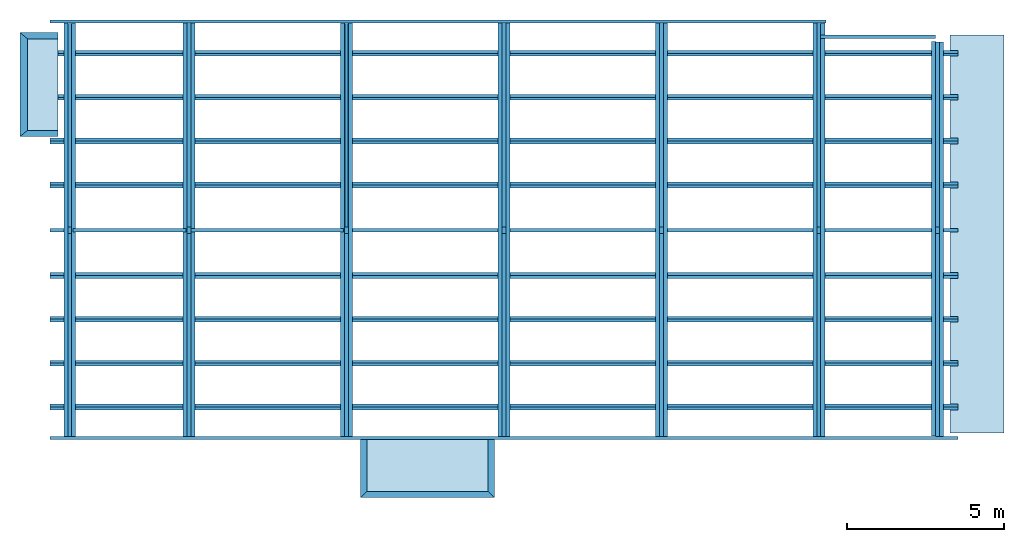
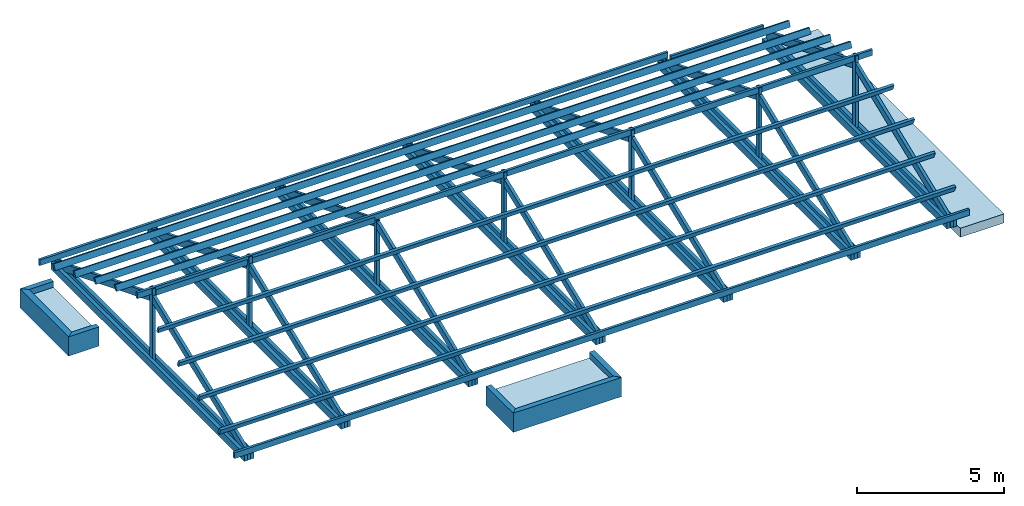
# One storey: 50 discrete accessories, 6 walls, 3 slabs.
"""IFC2X3 building model written with IfcOpenShell, lengths in metres."""

from ifc_helpers import new_model, entity, si_unit, converted_unit, derived_unit, money_unit, direction, frame, origin_with_axes, place, context, subcontext, project, spatial, polyline, outline, extrude, faceted_brep, source, transform, mapped, material, layer, layer_set, layer_usage, type_object, element, save


model = new_model("IFC2X3")

# Units and contexts
model_context = context("Model", 3, precision=1e-05, world=origin_with_axes(), true_north=direction((0.0, 1.0)))
body_context = subcontext(model_context, "Body", "Model", "MODEL_VIEW")
ifc_project = project(units=[si_unit("LENGTHUNIT", "METRE"), si_unit("AREAUNIT", "SQUARE_METRE"), si_unit("VOLUMEUNIT", "CUBIC_METRE"), converted_unit("PLANEANGLEUNIT", "DEGREE", entity("IfcPlaneAngleMeasure", 0.0174532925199), si_unit("PLANEANGLEUNIT", "RADIAN"), dimensions=[0, 0, 0, 0, 0, 0, 0]), money_unit("CHF"), converted_unit("TIMEUNIT", "Year", entity("IfcTimeMeasure", 31556926.0), si_unit("TIMEUNIT", "SECOND"), dimensions=[0, 0, 1, 0, 0, 0, 0]), si_unit("MASSUNIT", "GRAM", prefix="KILO"), si_unit("THERMODYNAMICTEMPERATUREUNIT", "DEGREE_CELSIUS"), si_unit("LUMINOUSINTENSITYUNIT", "LUMEN"), si_unit("ENERGYUNIT", "JOULE", prefix="MEGA"), derived_unit("THERMALCONDUCTANCEUNIT", [(si_unit("POWERUNIT", "WATT"), 1), (si_unit("LENGTHUNIT", "METRE"), -1), (si_unit("THERMODYNAMICTEMPERATUREUNIT", "KELVIN"), -1)]), derived_unit("SPECIFICHEATCAPACITYUNIT", [(si_unit("ENERGYUNIT", "JOULE"), 1), (si_unit("MASSUNIT", "GRAM", prefix="KILO"), -1), (si_unit("THERMODYNAMICTEMPERATUREUNIT", "KELVIN"), -1)]), derived_unit("MASSDENSITYUNIT", [(si_unit("MASSUNIT", "GRAM", prefix="KILO"), 1), (si_unit("VOLUMEUNIT", "CUBIC_METRE"), -1)])], contexts=[model_context])

# Site, building, storey
site_placement = place(None, origin_with_axes())
site = spatial("IfcSite", under=ifc_project, at=site_placement, Name="Site", CompositionType="ELEMENT")
building_placement = place(site_placement, origin_with_axes())
building = spatial("IfcBuilding", under=site, at=building_placement, Name="Bâtiment", CompositionType="ELEMENT")
storey_placement = place(building_placement, frame((0.0, 0.0, 7.4), z_axis=(0.0, 0.0, 1.0), x_axis=(1.0, 0.0, 0.0)))
storey = spatial("IfcBuildingStorey", under=building, at=storey_placement, Name="TOITURE", CompositionType="ELEMENT", Elevation=7.4)

# Slabs
ifc_material_1 = material(Name="Fer 269029580")
ifc_layer_1 = layer(ifc_material_1, 0.005, ventilated="UNKNOWN")
ifc_material_2 = material(Name="Etanchéité 286798990")
ifc_layer_2 = layer(ifc_material_2, 0.005, ventilated="UNKNOWN")
ifc_material_3 = material(Name="25 % 7019220")
ifc_layer_3 = layer(ifc_material_3, 0.005, ventilated="UNKNOWN")
ifc_material_4 = material(Name="Isolation laine de pierre 356123750")
ifc_layer_4 = layer(ifc_material_4, 0.15, ventilated="UNKNOWN")
ifc_material_5 = material(Name="50 % 1167783752")
ifc_layer_5 = layer(ifc_material_5, 0.005, ventilated="UNKNOWN")
ifc_material_6 = material(Name="Sans Trame 1167258944")
ifc_layer_6 = layer(ifc_material_6, 0.005, ventilated="UNKNOWN")
ifc_material_7 = material(Name="Bois massif 333501804")
ifc_layer_7 = layer(ifc_material_7, 0.2, ventilated="UNKNOWN")
ifc_layer_set_1 = layer_set([ifc_layer_1, ifc_layer_2, ifc_layer_3, ifc_layer_4, ifc_layer_5, ifc_layer_6, ifc_layer_7], Name="Dalle: Etancheite bicouche auto protegee + iso22")
ifc_layer_usage_1 = layer_usage(ifc_layer_set_1, "AXIS3", "NEGATIVE", 0.375)
slab_type = type_object("IfcSlabType", Name="Dalle: Etancheite bicouche auto protegee + iso22 375", PredefinedType="FLOOR")
slab_1_placement = place(storey_placement, frame((1697.46729001, 177.580132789, -4.1617677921), z_axis=(0.0, 0.0, 1.0), x_axis=(1.0, 0.0, 0.0)))
element("IfcSlab", 1, at=slab_1_placement, inside=storey, type_object=slab_type, material=ifc_layer_usage_1, Name="Dalle-21", PredefinedType="FLOOR", context=body_context, shape_type="SweptSolid", body=[
    extrude(outline(polyline([(0.0, 0.0), (0.0, 12.6399091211), (-1.71, 12.6399091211), (-1.71, 0.00777014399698), (0.0, 0.0)])), frame((0.0, 0.0, -0.375), z_axis=(0.0, 0.0, 1.0), x_axis=(1.0, 0.0, 0.0)), (0.0, 0.0, 1.0), 0.375),
])
ifc_layer_usage_2 = layer_usage(ifc_layer_set_1, "AXIS3", "NEGATIVE", 0.375)
slab_2_placement = place(storey_placement, frame((1667.16729001, 190.10004191, -4.2750000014), z_axis=(0.0, 0.0, 1.0), x_axis=(1.0, 0.0, 0.0)))
element("IfcSlab", 2, at=slab_2_placement, inside=storey, type_object=slab_type, material=ifc_layer_usage_2, Name="Dalle-21", PredefinedType="FLOOR", context=body_context, shape_type="SweptSolid", body=[
    extrude(outline(polyline([(-0.749999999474, 0.0), (-0.749999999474, -2.90148428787), (0.250000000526, -2.90148428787), (0.250000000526, 0.0), (-0.749999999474, 0.0)])), frame((0.0, 0.0, -0.375), z_axis=(0.0, 0.0, 1.0), x_axis=(1.0, 0.0, 0.0)), (0.0, 0.0, 1.0), 0.375),
])
ifc_layer_usage_3 = layer_usage(ifc_layer_set_1, "AXIS3", "NEGATIVE", 0.375)
slab_3_placement = place(storey_placement, frame((1677.23729001, 175.725296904, -4.2750000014), z_axis=(0.0, 0.0, 1.0), x_axis=(1.0, 0.0, 0.0)))
element("IfcSlab", 3, at=slab_3_placement, inside=storey, type_object=slab_type, material=ifc_layer_usage_3, Name="Dalle-21", PredefinedType="FLOOR", context=body_context, shape_type="SweptSolid", body=[
    extrude(outline(polyline([(0.0, 0.0), (3.85, 0.0), (3.85, 1.65474500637), (0.0, 1.65474500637), (0.0, 0.0)])), frame((0.0, 0.0, -0.375), z_axis=(0.0, 0.0, 1.0), x_axis=(1.0, 0.0, 0.0)), (0.0, 0.0, 1.0), 0.375),
])

# Walls
ifc_material_8 = material(Name="Diagonales 1167258944")
ifc_layer_8 = layer(ifc_material_8, 0.2, ventilated="UNKNOWN")
ifc_layer_set_2 = layer_set([ifc_layer_8], Name="Diagonales 1167258944 0.2")
ifc_layer_usage_4 = layer_usage(ifc_layer_set_2, "AXIS2", "POSITIVE", 0.0)
wall_type_1 = type_object("IfcWallType", Name="Diagonales 1167258944 200", PredefinedType="NOTDEFINED")
wall_1_placement = place(storey_placement, frame((1666.21729001, 186.997764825, -4.83), z_axis=(0.0, 0.0, 1.0), x_axis=(1.0, 0.0, 0.0)))
element("IfcWallStandardCase", 4, at=wall_1_placement, inside=storey, type_object=wall_type_1, material=ifc_layer_usage_4, Name="Mur-008", context=body_context, shape_type="SweptSolid", body=[
    extrude(outline(polyline([(0.0, 0.0), (1.2, 0.0), (1.2, 0.2), (0.24, 0.2), (0.0, 0.0)])), origin_with_axes(), (0.0, 0.0, 1.0), 0.8),
])
ifc_layer_usage_5 = layer_usage(ifc_layer_set_2, "AXIS2", "POSITIVE", 0.0)
wall_2_placement = place(storey_placement, frame((1667.41729001, 190.30004191, -4.83), z_axis=(0.0, 0.0, 1.0), x_axis=(-1.0, 0.0, 0.0)))
element("IfcWallStandardCase", 5, at=wall_2_placement, inside=storey, type_object=wall_type_1, material=ifc_layer_usage_5, Name="Mur-006", context=body_context, shape_type="SweptSolid", body=[
    extrude(outline(polyline([(0.0, 0.0), (1.2, 0.0), (0.96, 0.2), (0.0, 0.2), (0.0, 0.0)])), origin_with_axes(), (0.0, 0.0, 1.0), 0.8),
])
ifc_layer_usage_6 = layer_usage(ifc_layer_set_2, "AXIS2", "NEGATIVE", 0.0)
wall_3_placement = place(storey_placement, frame((1681.08729001, 175.731986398, -4.83), z_axis=(0.0, 0.0, 1.0), x_axis=(0.0, 1.0, 0.0)))
element("IfcWallStandardCase", 6, at=wall_3_placement, inside=storey, type_object=wall_type_1, material=ifc_layer_usage_6, Name="Mur-008", context=body_context, shape_type="SweptSolid", body=[
    extrude(outline(polyline([(-0.2, -0.2), (1.64805551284, -0.2), (1.64805551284, 0.0), (0.0, 0.0), (-0.2, -0.2)])), origin_with_axes(), (0.0, 0.0, 1.0), 0.8),
])
ifc_layer_usage_7 = layer_usage(ifc_layer_set_2, "AXIS2", "NEGATIVE", 0.0)
wall_4_placement = place(storey_placement, frame((1677.23729001, 177.38004191, -4.83), z_axis=(0.0, 0.0, 1.0), x_axis=(0.0, -1.0, 0.0)))
element("IfcWallStandardCase", 7, at=wall_4_placement, inside=storey, type_object=wall_type_1, material=ifc_layer_usage_7, Name="Mur-006", context=body_context, shape_type="SweptSolid", body=[
    extrude(outline(polyline([(0.0, -0.2), (1.84805551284, -0.2), (1.64805551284, 0.0), (0.0, 0.0), (0.0, -0.2)])), origin_with_axes(), (0.0, 0.0, 1.0), 0.8),
])
ifc_layer_usage_8 = layer_usage(ifc_layer_set_2, "AXIS2", "NEGATIVE", 0.0)
wall_5_placement = place(storey_placement, frame((1677.23729001, 175.731986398, -4.83), z_axis=(0.0, 0.0, 1.0), x_axis=(1.0, 0.0, 0.0)))
element("IfcWallStandardCase", 8, at=wall_5_placement, inside=storey, type_object=wall_type_1, material=ifc_layer_usage_8, Name="Mur-007", context=body_context, shape_type="SweptSolid", body=[
    extrude(outline(polyline([(-0.2, -0.2), (4.05, -0.2), (3.85, 0.0), (0.0, 0.0), (-0.2, -0.2)])), origin_with_axes(), (0.0, 0.0, 1.0), 0.8),
])
ifc_layer_9 = layer(ifc_material_6, 0.02, ventilated="UNKNOWN")
ifc_layer_10 = layer(ifc_material_8, 0.2, ventilated="UNKNOWN")
ifc_layer_11 = layer(ifc_material_6, 0.02, ventilated="UNKNOWN")
ifc_layer_set_3 = layer_set([ifc_layer_9, ifc_layer_10, ifc_layer_11], Name="Mur: béton + enduit")
ifc_layer_usage_9 = layer_usage(ifc_layer_set_3, "AXIS2", "POSITIVE", 0.0)
wall_type_2 = type_object("IfcWallType", Name="Mur: béton + enduit 240", PredefinedType="NOTDEFINED")
wall_6_placement = place(storey_placement, frame((1666.21729001, 190.30004191, -4.83), z_axis=(0.0, 0.0, 1.0), x_axis=(0.0, -1.0, 0.0)))
element("IfcWallStandardCase", 9, at=wall_6_placement, inside=storey, type_object=wall_type_2, material=ifc_layer_usage_9, Name="Mur-007", context=body_context, shape_type="SweptSolid", body=[
    extrude(outline(polyline([(0.0, 0.0), (3.30227708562, 0.0), (3.10227708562, 0.24), (0.2, 0.24), (0.0, 0.0)])), origin_with_axes(), (0.0, 0.0, 1.0), 0.8),
])

# Discrete accessories
ifc_material_9 = material(Name="Béton 2389403790")
discrete_accessory_type_1 = type_object("IfcDiscreteAccessoryType", Name="Panne 25")
shared_shape_1 = source(origin_with_axes(), body_context, "Body", "Brep", [
    faceted_brep([(0.0, -0.135552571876, 0.204268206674), (0.0, -0.046424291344, -0.0185683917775), (28.8400000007, -0.046424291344, -0.0185683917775), (28.8400000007, -0.135552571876, 0.204268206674), (0.0, -0.042703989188, 0.241404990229), (0.0, 0.046424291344, 0.0185683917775), (28.8400000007, 0.046424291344, 0.0185683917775), (28.8400000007, -0.042703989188, 0.241404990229)], [[[0, 1, 2, 3]], [[0, 4, 5, 1]], [[1, 5, 6, 2]], [[3, 2, 6, 7]], [[4, 0, 3, 7]], [[5, 4, 7, 6]]]),
])
for number, where, z_axis, x_axis, name in (
    (10, (1667.16729001, 179.847244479, -2.62520672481), (0.0, 0.0, 1.0), (1.0, 0.0, 0.0), "Protection-014"),
    (11, (1667.16729001, 182.63270196, -1.51110321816), (0.0, 0.0, 1.0), (1.0, 0.0, 0.0), "Protection-014"),
    (12, (1667.16729001, 181.23997322, -2.06815497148), (0.0, 0.0, 1.0), (1.0, 0.0, 0.0), "Protection-014"),
    (13, (1667.16729001, 178.453979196, -3.18091514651), (0.0, 0.0, 1.0), (1.0, 0.0, 0.0), "Protection-014"),
):
    element("IfcDiscreteAccessory", number, at=place(storey_placement, frame(where, z_axis=z_axis, x_axis=x_axis)), inside=storey, type_object=discrete_accessory_type_1, material=ifc_material_9, Name=name, context=body_context, shape_type="MappedRepresentation", body=[
        mapped(shared_shape_1, transform((0.0, 0.0, 0.0))),
    ])
discrete_accessory_1_placement = place(storey_placement, frame((1667.16729001, 184.02504191, -0.953080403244), z_axis=(0.0, 0.0, 1.0), x_axis=(-1.0, 0.0, 0.0)))
element("IfcDiscreteAccessory", 14, at=discrete_accessory_1_placement, inside=storey, type_object=discrete_accessory_type_1, material=ifc_material_9, Name="Protection-014", context=body_context, shape_type="Brep", body=[
    faceted_brep([(0.0, -0.05, 0.24), (-28.8400000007, -0.05, 0.24), (-28.8400000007, -0.05, 0.0), (0.0, -0.05, 0.0), (0.0, 0.05, 0.24), (-28.8400000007, 0.05, 0.24), (-28.8400000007, 0.05, 0.0), (0.0, 0.05, 0.0)], [[[0, 1, 2, 3]], [[4, 5, 1, 0]], [[1, 5, 6, 2]], [[3, 2, 6, 7]], [[0, 3, 7, 4]], [[7, 6, 5, 4]]]),
])
discrete_accessory_2_placement = place(storey_placement, frame((1671.60729001, 184.02504191, -1.07149268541), z_axis=(0.0, 0.0, 1.0), x_axis=(-1.0, 0.0, 0.0)))
element("IfcDiscreteAccessory", 15, at=discrete_accessory_2_placement, inside=storey, type_object=discrete_accessory_type_1, material=ifc_material_9, Name="Protection-014", context=body_context, shape_type="Brep", body=[
    faceted_brep([(0.0, -0.05, 0.24), (-4.88, -0.05, 0.24), (-4.88, -0.05, 0.0), (0.0, -0.05, 0.0), (0.0, 0.05, 0.24), (-4.88, 0.05, 0.24), (-4.88, 0.05, 0.0), (0.0, 0.05, 0.0)], [[[0, 1, 2, 3]], [[4, 5, 1, 0]], [[1, 5, 6, 2]], [[3, 2, 6, 7]], [[0, 3, 7, 4]], [[7, 6, 5, 4]]]),
])
discrete_accessory_3_placement = place(storey_placement, frame((1667.89729001, 184.02504191, -1.07149268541), z_axis=(0.0, 0.0, 1.0), x_axis=(-1.0, 0.0, 0.0)))
element("IfcDiscreteAccessory", 16, at=discrete_accessory_3_placement, inside=storey, type_object=discrete_accessory_type_1, material=ifc_material_9, Name="Protection-014", context=body_context, shape_type="Brep", body=[
    faceted_brep([(0.0, -0.05, 0.24), (-3.5899999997, -0.05, 0.24), (-3.5899999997, -0.05, 0.0), (0.0, -0.05, 0.0), (0.0, 0.05, 0.24), (-3.5899999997, 0.05, 0.24), (-3.5899999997, 0.05, 0.0), (0.0, 0.05, 0.0)], [[[0, 1, 2, 3]], [[4, 5, 1, 0]], [[1, 5, 6, 2]], [[3, 2, 6, 7]], [[0, 3, 7, 4]], [[7, 6, 5, 4]]]),
])
discrete_accessory_4_placement = place(storey_placement, frame((1667.16729001, 190.65004191, -3.59999991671), z_axis=(0.0, 0.0, 1.0), x_axis=(-1.0, 0.0, 0.0)))
element("IfcDiscreteAccessory", 17, at=discrete_accessory_4_placement, inside=storey, type_object=discrete_accessory_type_1, material=ifc_material_9, Name="Protection-014", context=body_context, shape_type="Brep", body=[
    faceted_brep([(0.0, -0.05, 0.24), (-24.6474194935, -0.05, 0.24), (-24.6474194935, -0.05, 0.0), (0.0, -0.05, 0.0), (0.0, 0.05, 0.24), (-24.6474194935, 0.05, 0.24), (-24.6474194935, 0.05, 0.0), (0.0, 0.05, 0.0)], [[[0, 1, 2, 3]], [[4, 5, 1, 0]], [[1, 5, 6, 2]], [[3, 2, 6, 7]], [[0, 3, 7, 4]], [[7, 6, 5, 4]]]),
])
discrete_accessory_5_placement = place(storey_placement, frame((1691.64729001, 190.17004191, -3.42816348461), z_axis=(0.0, 0.0, 1.0), x_axis=(1.0, 0.0, 0.0)))
element("IfcDiscreteAccessory", 18, at=discrete_accessory_5_placement, inside=storey, type_object=discrete_accessory_type_1, material=ifc_material_9, Name="Protection-014", context=body_context, shape_type="Brep", body=[
    faceted_brep([(0.0, -0.05, 0.24), (0.0, -0.05, 0.0), (3.65122573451, -0.05, 0.0), (3.65122573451, -0.05, 0.24), (0.0, 0.05, 0.24), (0.0, 0.05, 0.0), (3.65122573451, 0.05, 0.0), (3.65122573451, 0.05, 0.24)], [[[0, 1, 2, 3]], [[0, 4, 5, 1]], [[1, 5, 6, 2]], [[3, 2, 6, 7]], [[4, 0, 3, 7]], [[5, 4, 7, 6]]]),
])
discrete_accessory_6_placement = place(storey_placement, frame((1667.16729001, 177.43004191, -3.58139315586), z_axis=(0.0, 0.0, 1.0), x_axis=(1.0, 0.0, 0.0)))
element("IfcDiscreteAccessory", 19, at=discrete_accessory_6_placement, inside=storey, type_object=discrete_accessory_type_1, material=ifc_material_9, Name="Protection-014", context=body_context, shape_type="Brep", body=[
    faceted_brep([(0.0, -0.05, 0.24), (0.0, -0.05, 0.0), (28.8400000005, -0.05, 0.0), (28.8400000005, -0.05, 0.24), (0.0, 0.05, 0.24), (0.0, 0.05, 0.0), (28.8400000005, 0.05, 0.0), (28.8400000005, 0.05, 0.24)], [[[0, 1, 2, 3]], [[0, 4, 5, 1]], [[1, 5, 6, 2]], [[3, 2, 6, 7]], [[4, 0, 3, 7]], [[5, 4, 7, 6]]]),
])
shared_shape_2 = source(origin_with_axes(), body_context, "Body", "Brep", [
    faceted_brep([(0.0, -0.07, 0.3), (-13.135, -0.07, 0.3), (-13.135, -0.07, 0.0), (0.0, -0.07, 0.0), (0.0, 0.07, 0.3), (-13.135, 0.07, 0.3), (-13.135, 0.07, 0.0), (0.0, 0.07, 0.0)], [[[0, 1, 2, 3]], [[4, 5, 1, 0]], [[1, 5, 6, 2]], [[3, 2, 6, 7]], [[0, 3, 7, 4]], [[7, 6, 5, 4]]]),
])
for number, where, z_axis, x_axis, name in (
    (20, (1681.70729001, 190.60004191, -3.89999991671), (0.0, 0.0, 1.0), (0.0, 1.0, 0.0), "Protection-012"),
    (21, (1681.46729001, 190.60004191, -3.89999991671), (0.0, 0.0, 1.0), (0.0, 1.0, 0.0), "Protection-012"),
    (22, (1686.70729001, 190.60004191, -3.89999991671), (0.0, 0.0, 1.0), (0.0, 1.0, 0.0), "Protection-012"),
    (23, (1686.46729001, 190.60004191, -3.89999991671), (0.0, 0.0, 1.0), (0.0, 1.0, 0.0), "Protection-012"),
    (24, (1691.70729001, 190.60004191, -3.89999991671), (0.0, 0.0, 1.0), (0.0, 1.0, 0.0), "Protection-012"),
    (25, (1691.46729001, 190.60004191, -3.89999991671), (0.0, 0.0, 1.0), (0.0, 1.0, 0.0), "Protection-012"),
):
    element("IfcDiscreteAccessory", number, at=place(storey_placement, frame(where, z_axis=z_axis, x_axis=x_axis)), inside=storey, type_object=discrete_accessory_type_1, material=ifc_material_9, Name=name, context=body_context, shape_type="MappedRepresentation", body=[
        mapped(shared_shape_2, transform((0.0, 0.0, 0.0))),
    ])
discrete_accessory_type_2 = type_object("IfcDiscreteAccessoryType", Name="Chevron simple 25")
discrete_accessory_7_placement = place(storey_placement, frame((1676.58729001, 190.58504191, -3.89999991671), z_axis=(0.0, 0.0, 1.0), x_axis=(0.0, 1.0, 0.0)))
element("IfcDiscreteAccessory", 26, at=discrete_accessory_7_placement, inside=storey, type_object=discrete_accessory_type_2, material=ifc_material_9, Name="Protection-010", context=body_context, shape_type="Brep", body=[
    faceted_brep([(0.0, -0.05, 0.323106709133), (-6.56, -0.05, 2.94691951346), (-6.56, -0.05, 2.62381280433), (0.0, -0.05, 0.0), (0.0, 0.05, 0.323106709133), (-6.56, 0.05, 2.94691951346), (-6.56, 0.05, 2.62381280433), (0.0, 0.05, 0.0)], [[[0, 1, 2, 3]], [[1, 0, 4, 5]], [[1, 5, 6, 2]], [[3, 2, 6, 7]], [[3, 7, 4, 0]], [[7, 6, 5, 4]]]),
])
discrete_accessory_8_placement = place(storey_placement, frame((1695.35729001, 190.00004191, -3.66601661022), z_axis=(0.0, 0.0, 1.0), x_axis=(0.0, 1.0, 0.0)))
element("IfcDiscreteAccessory", 27, at=discrete_accessory_8_placement, inside=storey, type_object=discrete_accessory_type_2, material=ifc_material_9, Name="Protection-010", context=body_context, shape_type="Brep", body=[
    faceted_brep([(0.0, -0.06, 0.323106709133), (-5.975, -0.06, 2.71293620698), (-5.975, -0.06, 2.38982949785), (0.0, -0.06, 0.0), (-5.975, 0.06, 2.71293620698), (0.0, 0.06, 0.323106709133), (-5.975, 0.06, 2.38982949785), (0.0, 0.06, 0.0)], [[[0, 1, 2, 3]], [[4, 1, 0, 5]], [[1, 4, 6, 2]], [[3, 2, 6, 7]], [[3, 7, 5, 0]], [[7, 6, 4, 5]]]),
])
discrete_accessory_type_3 = type_object("IfcDiscreteAccessoryType", Name="Poteau 1 25")
shared_shape_3 = source(origin_with_axes(), body_context, "Body", "Brep", [
    faceted_brep([(0.1, 0.06, 0.0), (0.1, -0.06, 0.0), (-0.1, -0.06, 0.0), (-0.1, 0.06, 0.0), (0.1, 0.06, 2.9853394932), (0.1, -0.06, 2.9853394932), (-0.1, -0.06, 2.9853394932), (-0.1, 0.06, 2.9853394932)], [[[0, 1, 2, 3]], [[4, 5, 1, 0]], [[1, 5, 6, 2]], [[3, 2, 6, 7]], [[0, 3, 7, 4]], [[7, 6, 5, 4]]]),
])
for number, where, z_axis, x_axis, name in (
    (28, (1681.58729001, 184.02504191, -3.70197274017), (0.0, 0.0, 1.0), (0.0, 1.0, 0.0), "Protection-013"),
    (29, (1686.58729001, 184.02504191, -3.70197274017), (0.0, 0.0, 1.0), (0.0, 1.0, 0.0), "Protection-013"),
    (30, (1691.58729001, 184.02504191, -3.70197274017), (0.0, 0.0, 1.0), (0.0, 1.0, 0.0), "Protection-013"),
    (31, (1695.35729001, 184.02504191, -3.70197274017), (0.0, 0.0, 1.0), (0.0, 1.0, 0.0), "Protection-013"),
):
    element("IfcDiscreteAccessory", number, at=place(storey_placement, frame(where, z_axis=z_axis, x_axis=x_axis)), inside=storey, type_object=discrete_accessory_type_3, material=ifc_material_9, Name=name, context=body_context, shape_type="MappedRepresentation", body=[
        mapped(shared_shape_3, transform((0.0, 0.0, 0.0))),
    ])
discrete_accessory_9_placement = place(storey_placement, frame((1676.58729001, 184.02504191, -3.89999991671), z_axis=(0.0, 0.0, 1.0), x_axis=(0.0, -1.0, 0.0)))
element("IfcDiscreteAccessory", 32, at=discrete_accessory_9_placement, inside=storey, type_object=discrete_accessory_type_3, material=ifc_material_9, Name="Protection-013", context=body_context, shape_type="Brep", body=[
    faceted_brep([(-0.1, 0.06, 0.0), (0.1, 0.06, 0.0), (0.1, -0.06, 0.0), (-0.1, -0.06, 0.0), (-0.1, 0.06, 2.94691951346), (0.1, 0.06, 2.94691951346), (0.1, -0.06, 2.94691951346), (-0.1, -0.06, 2.94691951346)], [[[0, 1, 2, 3]], [[0, 4, 5, 1]], [[1, 5, 6, 2]], [[3, 2, 6, 7]], [[4, 0, 3, 7]], [[5, 4, 7, 6]]]),
])
shared_shape_4 = source(origin_with_axes(), body_context, "Body", "Brep", [
    faceted_brep([(6.56, -0.06, 2.94691951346), (0.0, -0.06, 0.323106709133), (0.0, -0.06, 0.0), (6.56, -0.06, 2.62381280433), (6.56, 0.06, 2.94691951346), (0.0, 0.06, 0.323106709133), (0.0, 0.06, 0.0), (6.56, 0.06, 2.62381280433)], [[[0, 1, 2, 3]], [[1, 0, 4, 5]], [[6, 2, 1, 5]], [[2, 6, 7, 3]], [[4, 0, 3, 7]], [[7, 6, 5, 4]]]),
])
for number, where, z_axis, x_axis, name in (
    (33, (1681.58729001, 177.46504191, -3.89999991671), (0.0, 0.0, 1.0), (0.0, 1.0, 0.0), "Protection-010"),
    (34, (1686.58729001, 177.46504191, -3.89999991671), (0.0, 0.0, 1.0), (0.0, 1.0, 0.0), "Protection-010"),
    (35, (1691.58729001, 177.46504191, -3.89999991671), (0.0, 0.0, 1.0), (0.0, 1.0, 0.0), "Protection-010"),
    (36, (1695.35729001, 177.46504191, -3.89999991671), (0.0, 0.0, 1.0), (0.0, 1.0, 0.0), "Protection-010"),
    (37, (1676.58729001, 190.58504191, -3.89999991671), (0.0, 0.0, 1.0), (0.0, -1.0, 0.0), "Protection-010"),
    (38, (1671.58729001, 190.58504191, -3.89999991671), (0.0, 0.0, 1.0), (0.0, -1.0, 0.0), "Protection-010"),
    (39, (1667.79729001, 190.58504191, -3.89999991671), (0.0, 0.0, 1.0), (0.0, -1.0, 0.0), "Protection-010"),
):
    element("IfcDiscreteAccessory", number, at=place(storey_placement, frame(where, z_axis=z_axis, x_axis=x_axis)), inside=storey, type_object=discrete_accessory_type_2, material=ifc_material_9, Name=name, context=body_context, shape_type="MappedRepresentation", body=[
        mapped(shared_shape_4, transform((0.0, 0.0, 0.0))),
    ])
shared_shape_5 = source(origin_with_axes(), body_context, "Body", "Brep", [
    faceted_brep([(0.0, -0.06, 0.323106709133), (-6.56, -0.06, 2.94691951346), (-6.56, -0.06, 2.62381280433), (0.0, -0.06, 0.0), (0.0, 0.06, 0.323106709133), (-6.56, 0.06, 2.94691951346), (-6.56, 0.06, 2.62381280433), (0.0, 0.06, 0.0)], [[[0, 1, 2, 3]], [[1, 0, 4, 5]], [[1, 5, 6, 2]], [[3, 2, 6, 7]], [[3, 7, 4, 0]], [[7, 6, 5, 4]]]),
])
for number, where, z_axis, x_axis, name in (
    (40, (1681.58729001, 190.58504191, -3.89999991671), (0.0, 0.0, 1.0), (0.0, 1.0, 0.0), "Protection-010"),
    (41, (1686.58729001, 190.58504191, -3.89999991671), (0.0, 0.0, 1.0), (0.0, 1.0, 0.0), "Protection-010"),
    (42, (1691.58729001, 190.58504191, -3.89999991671), (0.0, 0.0, 1.0), (0.0, 1.0, 0.0), "Protection-010"),
    (43, (1676.58729001, 177.46504191, -3.89999991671), (0.0, 0.0, 1.0), (0.0, -1.0, 0.0), "Protection-010"),
    (44, (1671.58729001, 177.46504191, -3.89999991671), (0.0, 0.0, 1.0), (0.0, -1.0, 0.0), "Protection-010"),
    (45, (1667.79729001, 177.46504191, -3.89999991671), (0.0, 0.0, 1.0), (0.0, -1.0, 0.0), "Protection-010"),
):
    element("IfcDiscreteAccessory", number, at=place(storey_placement, frame(where, z_axis=z_axis, x_axis=x_axis)), inside=storey, type_object=discrete_accessory_type_2, material=ifc_material_9, Name=name, context=body_context, shape_type="MappedRepresentation", body=[
        mapped(shared_shape_5, transform((0.0, 0.0, 0.0))),
    ])
shared_shape_6 = source(origin_with_axes(), body_context, "Body", "Brep", [
    faceted_brep([(0.0, -0.07, 0.3), (-12.535, -0.07, 0.3), (-12.535, -0.07, 0.0), (0.0, -0.07, 0.0), (0.0, 0.07, 0.3), (-12.535, 0.07, 0.3), (-12.535, 0.07, 0.0), (0.0, 0.07, 0.0)], [[[0, 1, 2, 3]], [[4, 5, 1, 0]], [[1, 5, 6, 2]], [[3, 2, 6, 7]], [[0, 3, 7, 4]], [[7, 6, 5, 4]]]),
])
for number, where, z_axis, x_axis, name in (
    (46, (1695.47729001, 190.00004191, -3.92864667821), (0.0, 0.0, 1.0), (0.0, 1.0, 0.0), "Protection-012"),
    (47, (1695.23729001, 190.02004191, -3.92864667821), (0.0, 0.0, 1.0), (0.0, 1.0, 0.0), "Protection-012"),
):
    element("IfcDiscreteAccessory", number, at=place(storey_placement, frame(where, z_axis=z_axis, x_axis=x_axis)), inside=storey, type_object=discrete_accessory_type_1, material=ifc_material_9, Name=name, context=body_context, shape_type="MappedRepresentation", body=[
        mapped(shared_shape_6, transform((0.0, 0.0, 0.0))),
    ])
shared_shape_7 = source(origin_with_axes(), body_context, "Body", "Brep", [
    faceted_brep([(0.0, -0.07, 0.3), (0.0, -0.07, 0.0), (13.135, -0.07, 0.0), (13.135, -0.07, 0.3), (0.0, 0.07, 0.3), (0.0, 0.07, 0.0), (13.135, 0.07, 0.0), (13.135, 0.07, 0.3)], [[[0, 1, 2, 3]], [[0, 4, 5, 1]], [[1, 5, 6, 2]], [[3, 2, 6, 7]], [[4, 0, 3, 7]], [[5, 4, 7, 6]]]),
])
for number, where, z_axis, x_axis, name in (
    (48, (1676.46729001, 190.60004191, -3.89999991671), (0.0, 0.0, 1.0), (0.0, -1.0, 0.0), "Protection-012"),
    (49, (1676.70729001, 190.60004191, -3.89999991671), (0.0, 0.0, 1.0), (0.0, -1.0, 0.0), "Protection-012"),
    (50, (1671.46729001, 190.60004191, -3.89999991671), (0.0, 0.0, 1.0), (0.0, -1.0, 0.0), "Protection-012"),
    (51, (1671.70729001, 190.60004191, -3.89999991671), (0.0, 0.0, 1.0), (0.0, -1.0, 0.0), "Protection-012"),
    (52, (1667.67729001, 190.60004191, -3.89999991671), (0.0, 0.0, 1.0), (0.0, -1.0, 0.0), "Protection-012"),
    (53, (1667.91729001, 190.60004191, -3.89999991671), (0.0, 0.0, 1.0), (0.0, -1.0, 0.0), "Protection-012"),
):
    element("IfcDiscreteAccessory", number, at=place(storey_placement, frame(where, z_axis=z_axis, x_axis=x_axis)), inside=storey, type_object=discrete_accessory_type_1, material=ifc_material_9, Name=name, context=body_context, shape_type="MappedRepresentation", body=[
        mapped(shared_shape_7, transform((0.0, 0.0, 0.0))),
    ])
shared_shape_8 = source(origin_with_axes(), body_context, "Body", "Brep", [
    faceted_brep([(-0.1, 0.06, 0.0), (0.1, 0.06, 0.0), (0.1, -0.06, 0.0), (-0.1, -0.06, 0.0), (-0.1, 0.06, 2.9853394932), (0.1, 0.06, 2.9853394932), (0.1, -0.06, 2.9853394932), (-0.1, -0.06, 2.9853394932)], [[[0, 1, 2, 3]], [[0, 4, 5, 1]], [[1, 5, 6, 2]], [[3, 2, 6, 7]], [[4, 0, 3, 7]], [[5, 4, 7, 6]]]),
])
for number, where, z_axis, x_axis, name in (
    (54, (1671.58729001, 184.02504191, -3.70197274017), (0.0, 0.0, 1.0), (0.0, -1.0, 0.0), "Protection-013"),
    (55, (1667.79729001, 184.02504191, -3.70197274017), (0.0, 0.0, 1.0), (0.0, -1.0, 0.0), "Protection-013"),
):
    element("IfcDiscreteAccessory", number, at=place(storey_placement, frame(where, z_axis=z_axis, x_axis=x_axis)), inside=storey, type_object=discrete_accessory_type_3, material=ifc_material_9, Name=name, context=body_context, shape_type="MappedRepresentation", body=[
        mapped(shared_shape_8, transform((0.0, 0.0, 0.0))),
    ])
shared_shape_9 = source(origin_with_axes(), body_context, "Body", "Brep", [
    faceted_brep([(0.0, -0.135552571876, 0.204268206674), (-28.8400000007, -0.135552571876, 0.204268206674), (-28.8400000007, -0.046424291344, -0.0185683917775), (0.0, -0.046424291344, -0.0185683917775), (0.0, -0.042703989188, 0.241404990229), (-28.8400000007, -0.042703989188, 0.241404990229), (-28.8400000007, 0.046424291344, 0.0185683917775), (0.0, 0.046424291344, 0.0185683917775)], [[[0, 1, 2, 3]], [[4, 5, 1, 0]], [[1, 5, 6, 2]], [[3, 2, 6, 7]], [[0, 3, 7, 4]], [[7, 6, 5, 4]]]),
])
for number, where, z_axis, x_axis, name in (
    (56, (1667.16729001, 185.417381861, -1.51110321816), (0.0, 0.0, 1.0), (-1.0, 0.0, 0.0), "Protection-014"),
    (57, (1667.16729001, 186.810110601, -2.06815497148), (0.0, 0.0, 1.0), (-1.0, 0.0, 0.0), "Protection-014"),
    (58, (1667.16729001, 189.596104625, -3.18091514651), (0.0, 0.0, 1.0), (-1.0, 0.0, 0.0), "Protection-014"),
    (59, (1667.16729001, 188.202839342, -2.62520672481), (0.0, 0.0, 1.0), (-1.0, 0.0, 0.0), "Protection-014"),
):
    element("IfcDiscreteAccessory", number, at=place(storey_placement, frame(where, z_axis=z_axis, x_axis=x_axis)), inside=storey, type_object=discrete_accessory_type_1, material=ifc_material_9, Name=name, context=body_context, shape_type="MappedRepresentation", body=[
        mapped(shared_shape_9, transform((0.0, 0.0, 0.0))),
    ])

save(model, "model.ifc")
